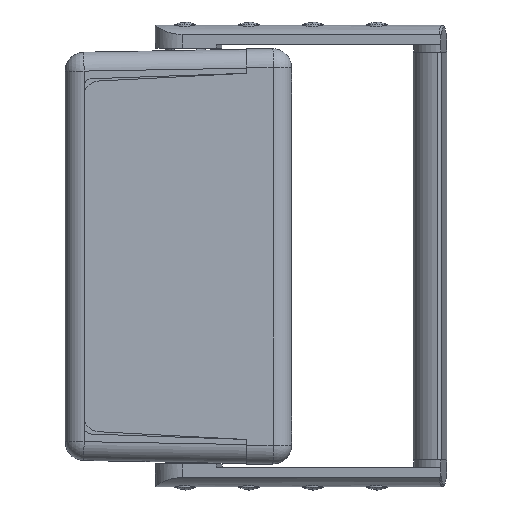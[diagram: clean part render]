
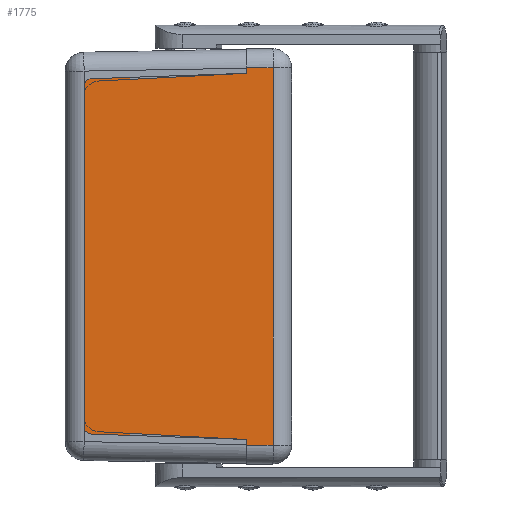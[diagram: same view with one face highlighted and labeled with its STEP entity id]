
A CAD part, left-side view. The second image highlights one B-rep face of the part: STEP entity #1775.
In plain terms, the highlighted planar face has unit normal (-1, -0.018, 0).
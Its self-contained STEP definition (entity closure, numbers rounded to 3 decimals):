
#560 = AXIS2_PLACEMENT_3D ( 'NONE', #12554, #9360, #20778 ) ;
#568 = CARTESIAN_POINT ( 'NONE',  ( -94.709, 12., 50. ) ) ;
#845 = EDGE_LOOP ( 'NONE', ( #20726, #13799, #3915, #7808, #4536, #934, #16709, #20511, #17269, #20370 ) ) ;
#934 = ORIENTED_EDGE ( 'NONE', *, *, #15030, .T. ) ;
#1149 = CARTESIAN_POINT ( 'NONE',  ( -94.709, 12., -55. ) ) ;
#1208 = LINE ( 'NONE', #13897, #9379 ) ;
#1221 = VECTOR ( 'NONE', #16865, 1000. ) ;
#1272 = CARTESIAN_POINT ( 'NONE',  ( -95.46, 55., 45.067 ) ) ;
#1406 = CARTESIAN_POINT ( 'NONE',  ( -95.426, 53.07, -47.066 ) ) ;
#1726 = CARTESIAN_POINT ( 'NONE',  ( -94.5, 0., -50. ) ) ;
#1775 = ADVANCED_FACE ( 'NONE', ( #18245 ), #19163, .T. ) ;
#1993 = CARTESIAN_POINT ( 'NONE',  ( -95.426, 53.07, -47.066 ) ) ;
#2512 = DIRECTION ( 'NONE',  ( -0.017, 0.999, -0.035 ) ) ;
#2756 = CARTESIAN_POINT ( 'NONE',  ( -94.709, 12., -55. ) ) ;
#2809 = DIRECTION ( 'NONE',  ( 0., 0., -1. ) ) ;
#3361 = DIRECTION ( 'NONE',  ( 0.017, -1., 0. ) ) ;
#3364 = EDGE_CURVE ( 'NONE', #6574, #17713, #12062, .T. ) ;
#3586 = VECTOR ( 'NONE', #2809, 1000. ) ;
#3877 = VERTEX_POINT ( 'NONE', #11237 ) ;
#3915 = ORIENTED_EDGE ( 'NONE', *, *, #3364, .F. ) ;
#4404 = DIRECTION ( 'NONE',  ( 0., 0., 1. ) ) ;
#4536 = ORIENTED_EDGE ( 'NONE', *, *, #10356, .T. ) ;
#4820 =( BOUNDED_CURVE ( )  B_SPLINE_CURVE ( 3, ( #9398, #19190, #15956, #6178 ),
 .UNSPECIFIED., .F., .F. ) 
 B_SPLINE_CURVE_WITH_KNOTS ( ( 4, 4 ),
 ( 1.606, 3.142 ),
 .UNSPECIFIED. ) 
 CURVE ( )  GEOMETRIC_REPRESENTATION_ITEM ( )  RATIONAL_B_SPLINE_CURVE ( ( 1., 0.813, 0.813, 1. ) ) 
 REPRESENTATION_ITEM ( '' )  );
#4908 = CARTESIAN_POINT ( 'NONE',  ( -94.586, 4.913, 55. ) ) ;
#5695 = CARTESIAN_POINT ( 'NONE',  ( -94.5, 0., 50. ) ) ;
#5756 = LINE ( 'NONE', #2756, #13904 ) ;
#5798 = CARTESIAN_POINT ( 'NONE',  ( -94.586, 4.913, -50. ) ) ;
#6178 = CARTESIAN_POINT ( 'NONE',  ( -95.46, 55., 45.067 ) ) ;
#6536 = DIRECTION ( 'NONE',  ( 0., 0., 1. ) ) ;
#6574 = VERTEX_POINT ( 'NONE', #18047 ) ;
#7336 = VERTEX_POINT ( 'NONE', #568 ) ;
#7808 = ORIENTED_EDGE ( 'NONE', *, *, #16869, .F. ) ;
#8083 = DIRECTION ( 'NONE',  ( -0.017, 0.999, 0.035 ) ) ;
#8439 = LINE ( 'NONE', #1149, #3586 ) ;
#8711 = CARTESIAN_POINT ( 'NONE',  ( -95.46, 55., 0. ) ) ;
#8829 = EDGE_CURVE ( 'NONE', #7336, #10780, #8439, .T. ) ;
#9341 = VERTEX_POINT ( 'NONE', #1272 ) ;
#9360 = DIRECTION ( 'NONE',  ( -1., -0.017, 0. ) ) ;
#9379 = VECTOR ( 'NONE', #2512, 1000. ) ;
#9398 = CARTESIAN_POINT ( 'NONE',  ( -95.426, 53.07, 47.066 ) ) ;
#9529 = CARTESIAN_POINT ( 'NONE',  ( -94.709, 12., 48.5 ) ) ;
#9767 = CARTESIAN_POINT ( 'NONE',  ( -95.426, 53.07, 47.066 ) ) ;
#10128 = CARTESIAN_POINT ( 'NONE',  ( -95.46, 55., -46.206 ) ) ;
#10252 = EDGE_CURVE ( 'NONE', #12128, #9341, #14747, .T. ) ;
#10356 = EDGE_CURVE ( 'NONE', #3877, #20304, #13215, .T. ) ;
#10523 =( BOUNDED_CURVE ( )  B_SPLINE_CURVE ( 3, ( #19917, #10128, #11752, #1993 ),
 .UNSPECIFIED., .F., .F. ) 
 B_SPLINE_CURVE_WITH_KNOTS ( ( 4, 4 ),
 ( 0., 1.536 ),
 .UNSPECIFIED. ) 
 CURVE ( )  GEOMETRIC_REPRESENTATION_ITEM ( )  RATIONAL_B_SPLINE_CURVE ( ( 1., 0.813, 0.813, 1. ) ) 
 REPRESENTATION_ITEM ( '' )  );
#10726 = EDGE_CURVE ( 'NONE', #16177, #9341, #4820, .T. ) ;
#10780 = VERTEX_POINT ( 'NONE', #9529 ) ;
#10894 = LINE ( 'NONE', #4908, #19598 ) ;
#11237 = CARTESIAN_POINT ( 'NONE',  ( -94.709, 12., -50. ) ) ;
#11752 = CARTESIAN_POINT ( 'NONE',  ( -95.446, 54.209, -47.026 ) ) ;
#12062 = LINE ( 'NONE', #19491, #20239 ) ;
#12128 = VERTEX_POINT ( 'NONE', #17068 ) ;
#12554 = CARTESIAN_POINT ( 'NONE',  ( -94.5, 0., -55. ) ) ;
#13215 = LINE ( 'NONE', #1726, #20887 ) ;
#13799 = ORIENTED_EDGE ( 'NONE', *, *, #16299, .T. ) ;
#13897 = CARTESIAN_POINT ( 'NONE',  ( -94.563, 3.623, 48.793 ) ) ;
#13904 = VECTOR ( 'NONE', #4404, 1000. ) ;
#13924 = VECTOR ( 'NONE', #15529, 1000. ) ;
#14431 = LINE ( 'NONE', #5695, #13924 ) ;
#14747 = LINE ( 'NONE', #8711, #1221 ) ;
#15030 = EDGE_CURVE ( 'NONE', #20304, #20446, #10894, .T. ) ;
#15529 = DIRECTION ( 'NONE',  ( -0.017, 1., 0. ) ) ;
#15956 = CARTESIAN_POINT ( 'NONE',  ( -95.46, 55., 46.206 ) ) ;
#16177 = VERTEX_POINT ( 'NONE', #9767 ) ;
#16299 = EDGE_CURVE ( 'NONE', #12128, #17713, #10523, .T. ) ;
#16392 = EDGE_CURVE ( 'NONE', #20446, #7336, #14431, .T. ) ;
#16709 = ORIENTED_EDGE ( 'NONE', *, *, #16392, .T. ) ;
#16865 = DIRECTION ( 'NONE',  ( 0., 0., 1. ) ) ;
#16869 = EDGE_CURVE ( 'NONE', #3877, #6574, #5756, .T. ) ;
#17068 = CARTESIAN_POINT ( 'NONE',  ( -95.46, 55., -45.067 ) ) ;
#17269 = ORIENTED_EDGE ( 'NONE', *, *, #19168, .T. ) ;
#17713 = VERTEX_POINT ( 'NONE', #1406 ) ;
#18047 = CARTESIAN_POINT ( 'NONE',  ( -94.709, 12., -48.5 ) ) ;
#18245 = FACE_OUTER_BOUND ( 'NONE', #845, .T. ) ;
#19163 = PLANE ( 'NONE',  #560 ) ;
#19168 = EDGE_CURVE ( 'NONE', #10780, #16177, #1208, .T. ) ;
#19190 = CARTESIAN_POINT ( 'NONE',  ( -95.446, 54.209, 47.026 ) ) ;
#19491 = CARTESIAN_POINT ( 'NONE',  ( -94.496, -0.212, -48.926 ) ) ;
#19598 = VECTOR ( 'NONE', #6536, 1000. ) ;
#19917 = CARTESIAN_POINT ( 'NONE',  ( -95.46, 55., -45.067 ) ) ;
#20239 = VECTOR ( 'NONE', #8083, 1000. ) ;
#20304 = VERTEX_POINT ( 'NONE', #5798 ) ;
#20370 = ORIENTED_EDGE ( 'NONE', *, *, #10726, .T. ) ;
#20446 = VERTEX_POINT ( 'NONE', #20913 ) ;
#20511 = ORIENTED_EDGE ( 'NONE', *, *, #8829, .T. ) ;
#20726 = ORIENTED_EDGE ( 'NONE', *, *, #10252, .F. ) ;
#20778 = DIRECTION ( 'NONE',  ( 0.017, -1., 0. ) ) ;
#20887 = VECTOR ( 'NONE', #3361, 1000. ) ;
#20913 = CARTESIAN_POINT ( 'NONE',  ( -94.586, 4.913, 50. ) ) ;
